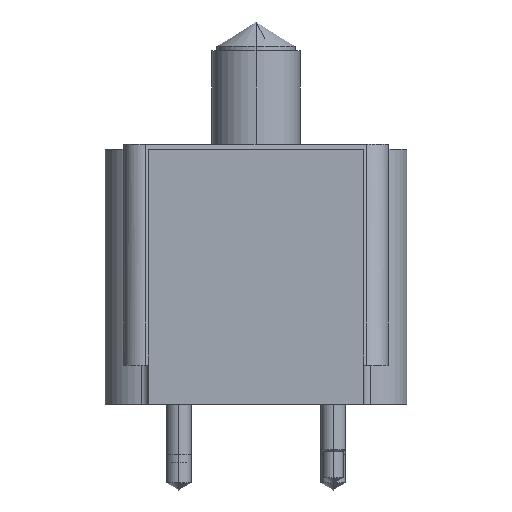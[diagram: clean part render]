
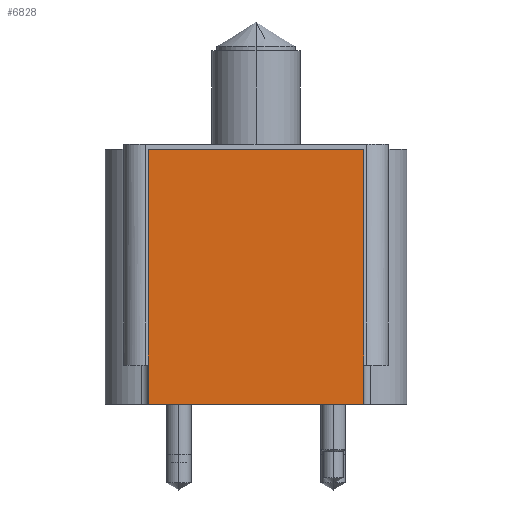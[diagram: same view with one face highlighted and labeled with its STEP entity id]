
A CAD part, left-side view. The second image highlights one B-rep face of the part: STEP entity #6828.
In plain terms, the highlighted planar face has unit normal (-1, 0, 0).
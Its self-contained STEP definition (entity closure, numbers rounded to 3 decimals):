
#6654=CARTESIAN_POINT('',(-84.201,34.988,82.55));
#6655=VERTEX_POINT('',#6654);
#6662=CARTESIAN_POINT('',(-84.201,-34.988,82.55));
#6663=VERTEX_POINT('',#6662);
#6664=CARTESIAN_POINT('',(-84.201,0.0,82.55));
#6665=DIRECTION('',(0.0,1.0,0.0));
#6666=VECTOR('',#6665,1.0);
#6667=LINE('',#6664,#6666);
#6668=EDGE_CURVE('',#6663,#6655,#6667,.T.);
#6798=CARTESIAN_POINT('',(-84.201,34.988,0.0));
#6799=VERTEX_POINT('',#6798);
#6800=CARTESIAN_POINT('',(-84.201,34.988,0.0));
#6801=DIRECTION('',(0.0,0.0,1.0));
#6802=VECTOR('',#6801,1.0);
#6803=LINE('',#6800,#6802);
#6804=EDGE_CURVE('',#6799,#6655,#6803,.T.);
#6805=ORIENTED_EDGE('',*,*,#6804,.F.);
#6806=CARTESIAN_POINT('',(-84.201,-34.988,0.0));
#6807=VERTEX_POINT('',#6806);
#6808=CARTESIAN_POINT('',(-84.201,0.0,0.0));
#6809=DIRECTION('',(0.0,-1.0,0.0));
#6810=VECTOR('',#6809,1.0);
#6811=LINE('',#6808,#6810);
#6812=EDGE_CURVE('',#6799,#6807,#6811,.T.);
#6813=ORIENTED_EDGE('',*,*,#6812,.T.);
#6814=CARTESIAN_POINT('',(-84.201,-34.988,0.0));
#6815=DIRECTION('',(0.0,0.0,-1.0));
#6816=VECTOR('',#6815,1.0);
#6817=LINE('',#6814,#6816);
#6818=EDGE_CURVE('',#6663,#6807,#6817,.T.);
#6819=ORIENTED_EDGE('',*,*,#6818,.F.);
#6820=ORIENTED_EDGE('',*,*,#6668,.T.);
#6821=EDGE_LOOP('',(#6805,#6813,#6819,#6820));
#6822=FACE_OUTER_BOUND('',#6821,.T.);
#6823=CARTESIAN_POINT('',(-84.201,0.0,0.0));
#6824=DIRECTION('',(-1.0,0.0,-0.0));
#6825=DIRECTION('',(-0.0,0.0,1.0));
#6826=AXIS2_PLACEMENT_3D('',#6823,#6824,#6825);
#6827=PLANE('',#6826);
#6828=ADVANCED_FACE('',(#6822),#6827,.T.);
